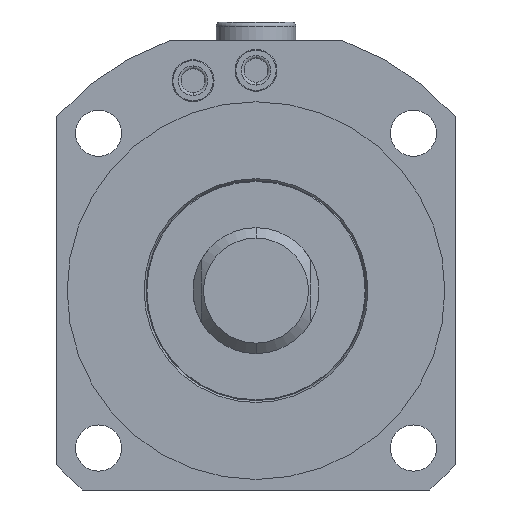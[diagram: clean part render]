
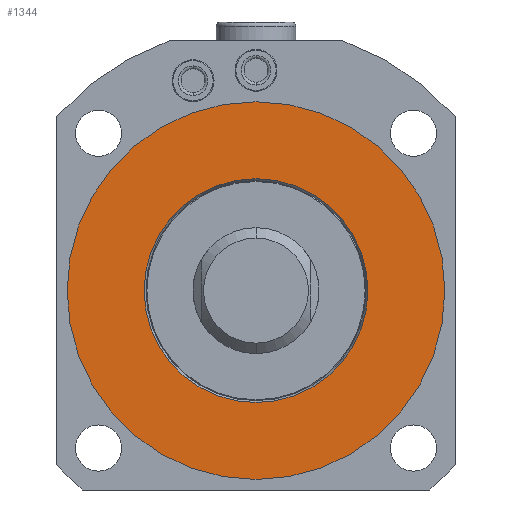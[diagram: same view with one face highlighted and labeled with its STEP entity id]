
A CAD part, front view. The second image highlights one B-rep face of the part: STEP entity #1344.
In plain terms, the highlighted planar face has unit normal (0, -1, 0).
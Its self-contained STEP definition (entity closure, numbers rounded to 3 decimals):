
#1016=FACE_BOUND('',#1843,.T.);
#1017=FACE_BOUND('',#1844,.T.);
#1083=PLANE('',#4534);
#1344=ADVANCED_FACE('',(#1016,#1017),#1083,.T.);
#1843=EDGE_LOOP('',(#3014,#3015));
#1844=EDGE_LOOP('',(#3016,#3017));
#3014=ORIENTED_EDGE('',*,*,#3781,.T.);
#3015=ORIENTED_EDGE('',*,*,#3891,.T.);
#3016=ORIENTED_EDGE('',*,*,#3775,.F.);
#3017=ORIENTED_EDGE('',*,*,#3892,.F.);
#3395=VERTEX_POINT('',#6494);
#3396=VERTEX_POINT('',#6495);
#3401=VERTEX_POINT('',#6506);
#3402=VERTEX_POINT('',#6508);
#3775=EDGE_CURVE('',#3395,#3396,#4074,.T.);
#3781=EDGE_CURVE('',#3402,#3401,#4077,.T.);
#3891=EDGE_CURVE('',#3401,#3402,#4127,.T.);
#3892=EDGE_CURVE('',#3396,#3395,#4128,.T.);
#4074=CIRCLE('',#4441,45.);
#4077=CIRCLE('',#4445,26.662);
#4127=CIRCLE('',#4531,26.662);
#4128=CIRCLE('',#4533,45.);
#4441=AXIS2_PLACEMENT_3D('',#6493,#5323,#5324);
#4445=AXIS2_PLACEMENT_3D('',#6507,#5334,#5335);
#4531=AXIS2_PLACEMENT_3D('',#6854,#5547,#5548);
#4533=AXIS2_PLACEMENT_3D('',#6856,#5551,#5552);
#4534=AXIS2_PLACEMENT_3D('',#6857,#5553,#5554);
#5323=DIRECTION('',(0.,1.,0.));
#5324=DIRECTION('',(-1.,0.,0.));
#5334=DIRECTION('',(0.,1.,0.));
#5335=DIRECTION('',(-1.,0.,0.));
#5547=DIRECTION('',(0.,1.,0.));
#5548=DIRECTION('',(-1.,0.,0.));
#5551=DIRECTION('',(0.,1.,0.));
#5552=DIRECTION('',(-1.,0.,0.));
#5553=DIRECTION('',(0.,-1.,0.));
#5554=DIRECTION('',(-1.,0.,0.));
#6493=CARTESIAN_POINT('',(0.,-128.,0.));
#6494=CARTESIAN_POINT('',(-45.,-128.,0.));
#6495=CARTESIAN_POINT('',(45.,-128.,0.));
#6506=CARTESIAN_POINT('',(-26.662,-128.,0.));
#6507=CARTESIAN_POINT('',(0.,-128.,0.));
#6508=CARTESIAN_POINT('',(26.662,-128.,0.));
#6854=CARTESIAN_POINT('',(0.,-128.,0.));
#6856=CARTESIAN_POINT('',(0.,-128.,0.));
#6857=CARTESIAN_POINT('',(-26.662,-128.,0.));
